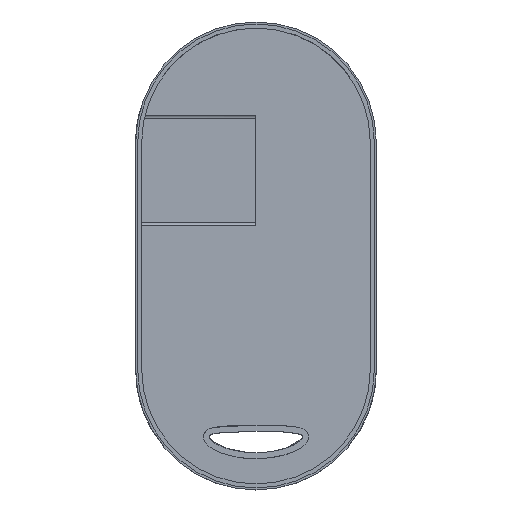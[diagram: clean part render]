
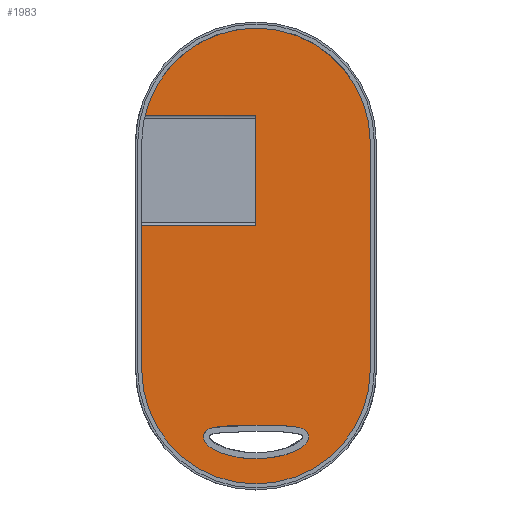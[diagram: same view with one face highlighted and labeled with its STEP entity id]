
A CAD part, top view. The second image highlights one B-rep face of the part: STEP entity #1983.
In plain terms, the highlighted planar face has unit normal (0, 0, 1).
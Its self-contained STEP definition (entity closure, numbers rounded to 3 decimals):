
#156=CARTESIAN_POINT('',(-27.71,75.661,-4.4));
#158=DIRECTION('',(1.,0.,0.));
#159=VECTOR('',#158,27.71);
#160=CARTESIAN_POINT('',(-27.71,75.661,-4.4));
#161=LINE('',#160,#159);
#314=CARTESIAN_POINT('',(0.,-9.912,-4.4));
#315=CARTESIAN_POINT('',(1.565,-9.912,-4.4));
#316=CARTESIAN_POINT('',(3.793,-9.721,-4.4));
#317=CARTESIAN_POINT('',(6.411,-9.186,-4.4));
#318=CARTESIAN_POINT('',(8.349,-8.616,-4.4));
#319=CARTESIAN_POINT('',(9.821,-7.998,-4.4));
#320=CARTESIAN_POINT('',(10.903,-7.399,-4.4));
#321=CARTESIAN_POINT('',(11.607,-6.923,-4.4));
#322=CARTESIAN_POINT('',(12.207,-6.409,-4.4));
#323=CARTESIAN_POINT('',(12.706,-5.822,-4.4));
#324=CARTESIAN_POINT('',(13.034,-5.182,-4.4));
#325=CARTESIAN_POINT('',(13.138,-4.499,-4.4));
#326=CARTESIAN_POINT('',(13.06,-3.814,-4.4));
#327=CARTESIAN_POINT('',(12.662,-3.104,-4.4));
#328=CARTESIAN_POINT('',(12.087,-2.651,-4.4));
#329=CARTESIAN_POINT('',(11.531,-2.381,-4.4));
#330=CARTESIAN_POINT('',(10.768,-2.138,-4.4));
#331=CARTESIAN_POINT('',(9.692,-1.942,-4.4));
#332=CARTESIAN_POINT('',(8.143,-1.784,-4.4));
#333=CARTESIAN_POINT('',(6.34,-1.666,-4.4));
#334=CARTESIAN_POINT('',(3.738,-1.554,-4.4));
#335=CARTESIAN_POINT('',(1.517,-1.517,-4.4));
#336=CARTESIAN_POINT('',(0.,-1.517,
-4.4));
#338=CARTESIAN_POINT('',(0.,-1.517,
-4.4));
#339=CARTESIAN_POINT('',(-1.517,-1.517,
-4.4));
#340=CARTESIAN_POINT('',(-3.738,-1.554,
-4.4));
#341=CARTESIAN_POINT('',(-6.34,-1.666,
-4.4));
#342=CARTESIAN_POINT('',(-8.143,-1.784,
-4.4));
#343=CARTESIAN_POINT('',(-9.692,-1.942,
-4.4));
#344=CARTESIAN_POINT('',(-10.768,-2.138,
-4.4));
#345=CARTESIAN_POINT('',(-11.531,-2.381,
-4.4));
#346=CARTESIAN_POINT('',(-12.087,-2.651,
-4.4));
#347=CARTESIAN_POINT('',(-12.662,-3.104,
-4.4));
#348=CARTESIAN_POINT('',(-13.06,-3.814,
-4.4));
#349=CARTESIAN_POINT('',(-13.138,-4.499,
-4.4));
#350=CARTESIAN_POINT('',(-13.034,-5.182,
-4.4));
#351=CARTESIAN_POINT('',(-12.706,-5.822,
-4.4));
#352=CARTESIAN_POINT('',(-12.207,-6.409,
-4.4));
#353=CARTESIAN_POINT('',(-11.607,-6.923,
-4.4));
#354=CARTESIAN_POINT('',(-10.903,-7.399,
-4.4));
#355=CARTESIAN_POINT('',(-9.821,-7.998,
-4.4));
#356=CARTESIAN_POINT('',(-8.349,-8.616,
-4.4));
#357=CARTESIAN_POINT('',(-6.411,-9.186,
-4.4));
#358=CARTESIAN_POINT('',(-3.793,-9.721,
-4.4));
#359=CARTESIAN_POINT('',(-1.565,-9.912,-4.4));
#360=CARTESIAN_POINT('',(0.,-9.912,-4.4));
#362=CARTESIAN_POINT('',(0.,12.3,
-4.4));
#363=DIRECTION('',(0.,0.,-1.));
#364=DIRECTION('',(1.,0.,0.));
#365=AXIS2_PLACEMENT_3D('',#362,#363,#364);
#367=DIRECTION('',(0.,1.,0.));
#368=VECTOR('',#367,36.039);
#369=CARTESIAN_POINT('',(-28.5,12.3,-4.4));
#370=LINE('',#369,#368);
#371=DIRECTION('',(0.,1.,0.));
#372=VECTOR('',#371,27.323);
#373=CARTESIAN_POINT('',(0.,48.339,-4.4));
#374=LINE('',#373,#372);
#375=CARTESIAN_POINT('',(0.,69.,-4.4));
#376=DIRECTION('',(0.,0.,-1.));
#377=DIRECTION('',(-0.972,0.234,0.));
#378=AXIS2_PLACEMENT_3D('',#375,#376,#377);
#392=DIRECTION('',(0.,-1.,0.));
#393=VECTOR('',#392,8.);
#394=CARTESIAN_POINT('',(29.8,64.,-4.4));
#395=LINE('',#394,#393);
#500=DIRECTION('',(1.,0.,0.));
#501=VECTOR('',#500,1.3);
#502=CARTESIAN_POINT('',(28.5,64.,-4.4));
#503=LINE('',#502,#501);
#517=DIRECTION('',(0.,1.,0.));
#518=VECTOR('',#517,5.);
#519=CARTESIAN_POINT('',(28.5,64.,-4.4));
#520=LINE('',#519,#518);
#521=DIRECTION('',(0.,1.,0.));
#522=VECTOR('',#521,43.7);
#523=CARTESIAN_POINT('',(28.5,12.3,-4.4));
#524=LINE('',#523,#522);
#568=DIRECTION('',(1.,0.,0.));
#569=VECTOR('',#568,1.3);
#570=CARTESIAN_POINT('',(28.5,56.,-4.4));
#571=LINE('',#570,#569);
#653=DIRECTION('',(-1.,0.,0.));
#654=VECTOR('',#653,28.5);
#655=CARTESIAN_POINT('',(0.,48.339,-4.4));
#656=LINE('',#655,#654);
#1300=CARTESIAN_POINT('',(28.5,12.3,-4.4));
#1301=CARTESIAN_POINT('',(-28.5,12.3,-4.4));
#1302=VERTEX_POINT('',#1300);
#1303=VERTEX_POINT('',#1301);
#1304=VERTEX_POINT('',#314);
#1305=VERTEX_POINT('',#336);
#1316=CARTESIAN_POINT('',(28.5,69.,-4.4));
#1317=VERTEX_POINT('',#1316);
#1408=VERTEX_POINT('',#156);
#1409=CARTESIAN_POINT('',(0.,75.661,-4.4));
#1410=VERTEX_POINT('',#1409);
#1423=CARTESIAN_POINT('',(28.5,64.,-4.4));
#1424=VERTEX_POINT('',#1423);
#1425=CARTESIAN_POINT('',(28.5,56.,-4.4));
#1426=VERTEX_POINT('',#1425);
#1489=CARTESIAN_POINT('',(0.,48.339,-4.4));
#1490=VERTEX_POINT('',#1489);
#1491=CARTESIAN_POINT('',(-28.5,48.339,-4.4));
#1492=VERTEX_POINT('',#1491);
#1495=CARTESIAN_POINT('',(29.8,64.,-4.4));
#1496=VERTEX_POINT('',#1495);
#1499=CARTESIAN_POINT('',(29.8,56.,-4.4));
#1500=VERTEX_POINT('',#1499);
#1950=CARTESIAN_POINT('',(36.12,105.,-4.4));
#1951=DIRECTION('',(0.,0.,1.));
#1952=DIRECTION('',(0.,-1.,0.));
#1953=AXIS2_PLACEMENT_3D('',#1950,#1951,#1952);
#1954=PLANE('',#1953);
#1956=ORIENTED_EDGE('',*,*,#1955,.T.);
#1958=ORIENTED_EDGE('',*,*,#1957,.F.);
#1960=ORIENTED_EDGE('',*,*,#1959,.F.);
#1962=ORIENTED_EDGE('',*,*,#1961,.T.);
#1964=ORIENTED_EDGE('',*,*,#1963,.T.);
#1966=ORIENTED_EDGE('',*,*,#1965,.F.);
#1967=ORIENTED_EDGE('',*,*,#1942,.T.);
#1968=ORIENTED_EDGE('',*,*,#1719,.F.);
#1970=ORIENTED_EDGE('',*,*,#1969,.T.);
#1972=ORIENTED_EDGE('',*,*,#1971,.F.);
#1974=ORIENTED_EDGE('',*,*,#1973,.T.);
#1975=EDGE_LOOP('',(#1956,#1958,#1960,#1962,#1964,#1966,#1967,#1968,#1970,#1972,
#1974));
#1976=FACE_OUTER_BOUND('',#1975,.F.);
#1978=ORIENTED_EDGE('',*,*,#1977,.T.);
#1980=ORIENTED_EDGE('',*,*,#1979,.T.);
#1981=EDGE_LOOP('',(#1978,#1980));
#1982=FACE_BOUND('',#1981,.F.);
#1983=ADVANCED_FACE('',(#1976,#1982),#1954,.T.);
#337=B_SPLINE_CURVE_WITH_KNOTS('',3,(#314,#315,#316,#317,#318,#319,#320,#321,
#322,#323,#324,#325,#326,#327,#328,#329,#330,#331,#332,#333,#334,#335,#336),
.UNSPECIFIED.,.F.,.F.,(4,1,1,1,1,1,1,1,1,1,1,1,1,1,1,1,1,1,1,1,4),(0.,
0.12,0.18,0.24,0.318,0.357,0.396,
0.435,0.474,0.513,0.532,0.552,0.582,
0.612,0.642,0.672,0.733,0.793,0.845,
0.897,1.),.UNSPECIFIED.);
#361=B_SPLINE_CURVE_WITH_KNOTS('',3,(#338,#339,#340,#341,#342,#343,#344,#345,
#346,#347,#348,#349,#350,#351,#352,#353,#354,#355,#356,#357,#358,#359,#360),
.UNSPECIFIED.,.F.,.F.,(4,1,1,1,1,1,1,1,1,1,1,1,1,1,1,1,1,1,1,1,4),(0.,
0.103,0.155,0.207,0.267,0.328,0.358,
0.388,0.418,0.448,0.468,0.487,0.526,
0.565,0.604,0.643,0.682,0.76,0.82,
0.88,1.),.UNSPECIFIED.);
#366=CIRCLE('',#365,28.5);
#379=CIRCLE('',#378,28.5);
#1719=EDGE_CURVE('',#1408,#1410,#161,.T.);
#1942=EDGE_CURVE('',#1490,#1410,#374,.T.);
#1955=EDGE_CURVE('',#1496,#1500,#395,.T.);
#1957=EDGE_CURVE('',#1426,#1500,#571,.T.);
#1959=EDGE_CURVE('',#1302,#1426,#524,.T.);
#1961=EDGE_CURVE('',#1302,#1303,#366,.T.);
#1963=EDGE_CURVE('',#1303,#1492,#370,.T.);
#1965=EDGE_CURVE('',#1490,#1492,#656,.T.);
#1969=EDGE_CURVE('',#1408,#1317,#379,.T.);
#1971=EDGE_CURVE('',#1424,#1317,#520,.T.);
#1973=EDGE_CURVE('',#1424,#1496,#503,.T.);
#1977=EDGE_CURVE('',#1304,#1305,#337,.T.);
#1979=EDGE_CURVE('',#1305,#1304,#361,.T.);
